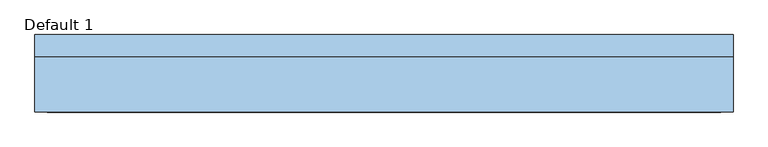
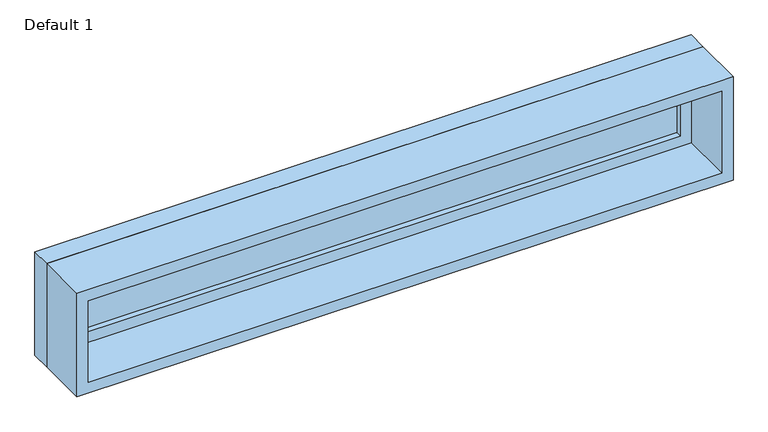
"""IFC4 building model written with IfcOpenShell, lengths in millimetres: window geometry, Planitar-Fixed : Default 1."""

from ifc_helpers import new_model, si_unit, frame, origin, place, context, project, spatial, polyline, outline, extrude, source, transform, mapped, element, save


def default_1_7314fb05(model_context):
    return source(origin(), model_context, "Body", "SweptSolid", [
        extrude(outline(polyline([(1200.2, -895.4), (933.4, -895.4), (933.4, 895.4), (1200.2, 895.4), (1200.2, -895.4)]), holes=[polyline([(1156.2, -851.4), (1156.2, 851.4), (977.4, 851.4), (977.4, -851.4), (1156.2, -851.4)])]), frame((0.0, 57.9, 0.0), z_axis=(0.0, 1.0, 0.0), x_axis=(0.0, 0.0, 1.0)), (0.0, 0.0, 1.0), 44.0),
        extrude(outline(polyline([(1219.2, -914.4), (914.4, -914.4), (914.4, 914.4), (1219.2, 914.4), (1219.2, -914.4)]), holes=[polyline([(1200.2, -895.4), (1200.2, 895.4), (933.4, 895.4), (933.4, -895.4), (1200.2, -895.4)])]), frame((0.0, 57.9, 0.0), z_axis=(0.0, 1.0, 0.0), x_axis=(0.0, 0.0, 1.0)), (0.0, 0.0, 1.0), 56.7),
        extrude(outline(polyline([(1219.2, -914.4), (914.4, -914.4), (914.4, 914.4), (1219.2, 914.4), (1219.2, -914.4)]), holes=[polyline([(1187.2, -882.4), (1187.2, 882.4), (946.4, 882.4), (946.4, -882.4), (1187.2, -882.4)])]), frame((0.0, -88.6, 0.0), z_axis=(0.0, 1.0, 0.0), x_axis=(0.0, 0.0, 1.0)), (0.0, 0.0, 1.0), 146.5),
        extrude(outline(polyline([(-851.4, 85.9), (851.4, 85.9), (851.4, 73.9), (-851.4, 73.9), (-851.4, 85.9)])), frame((0.0, 0.0, 977.4), z_axis=(0.0, 0.0, 1.0), x_axis=(1.0, 0.0, 0.0)), (0.0, 0.0, 1.0), 178.8),
    ])


if __name__ == "__main__":
    model = new_model("IFC4")
    model_context = context("Model", 3, world=origin())
    ifc_project = project(units=[si_unit("LENGTHUNIT", "METRE", prefix="MILLI")], contexts=[model_context])
    site = spatial("IfcSite", under=ifc_project)
    building = spatial("IfcBuilding", under=site)
    placement = place(None, origin())
    default_1_shape = default_1_7314fb05(model_context)
    element("IfcWindow", 1, ObjectType="Planitar-Fixed : Default 1", at=placement, inside=building, context=model_context, shape_type="MappedRepresentation", body=[
        mapped(default_1_shape, transform((0.0, 0.0, 0.0), x_axis=(1.0, 0.0, 0.0), y_axis=(0.0, 1.0, 0.0), z_axis=(0.0, 0.0, 1.0))),
    ])
    save(model, "model.ifc")
